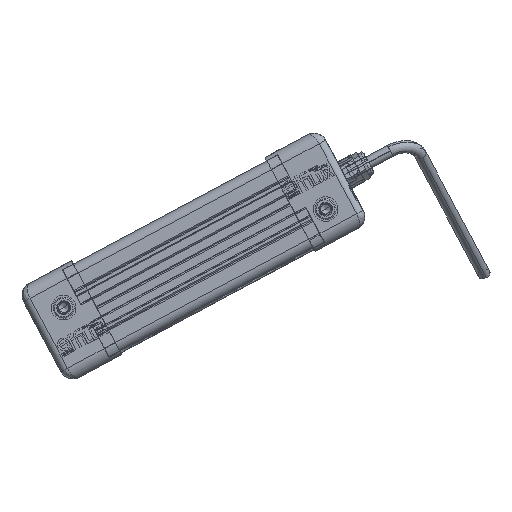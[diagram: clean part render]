
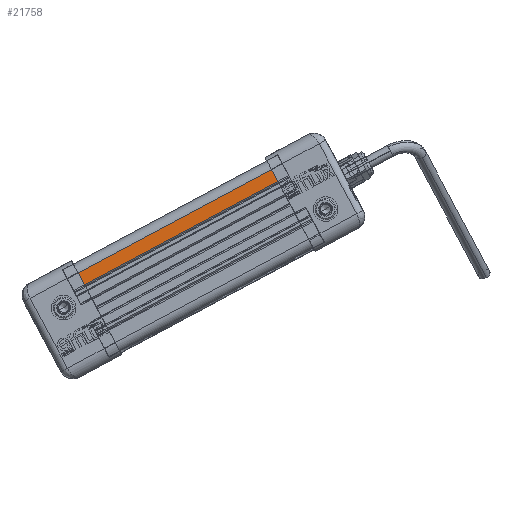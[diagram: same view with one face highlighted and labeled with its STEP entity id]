
A CAD part, front view. The second image highlights one B-rep face of the part: STEP entity #21758.
In plain terms, the highlighted planar face has unit normal (0, -1, 0) as drawn and (-1, 0, 0) by its records, which use the part's own axes.
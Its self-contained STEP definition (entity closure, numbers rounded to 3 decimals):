
#4378 = EDGE_CURVE ( 'NONE', #8612, #33552, #26617, .T. ) ;
#4858 = DIRECTION ( 'NONE',  ( 1., 0., 0. ) ) ;
#6386 = EDGE_CURVE ( 'NONE', #8612, #55365, #50290, .T. ) ;
#8612 = VERTEX_POINT ( 'NONE', #40089 ) ;
#8946 = ORIENTED_EDGE ( 'NONE', *, *, #52278, .F. ) ;
#9457 = DIRECTION ( 'NONE',  ( 0., 0., -1. ) ) ;
#10834 = ORIENTED_EDGE ( 'NONE', *, *, #4378, .F. ) ;
#10895 = FACE_OUTER_BOUND ( 'NONE', #55134, .T. ) ;
#12607 = CARTESIAN_POINT ( 'NONE',  ( -9., 10.5, 0. ) ) ;
#13372 = DIRECTION ( 'NONE',  ( 0., -1., 0. ) ) ;
#13404 = EDGE_CURVE ( 'NONE', #55365, #19885, #49530, .T. ) ;
#14664 = CARTESIAN_POINT ( 'NONE',  ( -9., 10.5, 99. ) ) ;
#14705 = CARTESIAN_POINT ( 'NONE',  ( -9., 16., 99. ) ) ;
#15748 = VECTOR ( 'NONE', #21051, 1000. ) ;
#18641 = AXIS2_PLACEMENT_3D ( 'NONE', #36113, #4858, #55208 ) ;
#19885 = VERTEX_POINT ( 'NONE', #12607 ) ;
#21051 = DIRECTION ( 'NONE',  ( 0., -1., 0. ) ) ;
#21758 = ADVANCED_FACE ( 'NONE', ( #10895 ), #22675, .F. ) ;
#22675 = PLANE ( 'NONE',  #18641 ) ;
#23104 = VECTOR ( 'NONE', #13372, 1000. ) ;
#23816 = CARTESIAN_POINT ( 'NONE',  ( -9., 16., 0. ) ) ;
#26617 = LINE ( 'NONE', #57461, #15748 ) ;
#27242 = VECTOR ( 'NONE', #45104, 1000. ) ;
#29232 = ORIENTED_EDGE ( 'NONE', *, *, #13404, .T. ) ;
#33552 = VERTEX_POINT ( 'NONE', #14664 ) ;
#36113 = CARTESIAN_POINT ( 'NONE',  ( -9., 16., 99. ) ) ;
#39400 = ORIENTED_EDGE ( 'NONE', *, *, #6386, .T. ) ;
#40089 = CARTESIAN_POINT ( 'NONE',  ( -9., 16., 99. ) ) ;
#45104 = DIRECTION ( 'NONE',  ( 0., 0., -1. ) ) ;
#45958 = LINE ( 'NONE', #50614, #27242 ) ;
#49242 = CARTESIAN_POINT ( 'NONE',  ( -9., 16., 0. ) ) ;
#49530 = LINE ( 'NONE', #49242, #23104 ) ;
#50290 = LINE ( 'NONE', #14705, #50469 ) ;
#50469 = VECTOR ( 'NONE', #9457, 1000. ) ;
#50614 = CARTESIAN_POINT ( 'NONE',  ( -9., 10.5, 99. ) ) ;
#52278 = EDGE_CURVE ( 'NONE', #33552, #19885, #45958, .T. ) ;
#55134 = EDGE_LOOP ( 'NONE', ( #29232, #8946, #10834, #39400 ) ) ;
#55208 = DIRECTION ( 'NONE',  ( 0., 1., 0. ) ) ;
#55365 = VERTEX_POINT ( 'NONE', #23816 ) ;
#57461 = CARTESIAN_POINT ( 'NONE',  ( -9., 16., 99. ) ) ;
